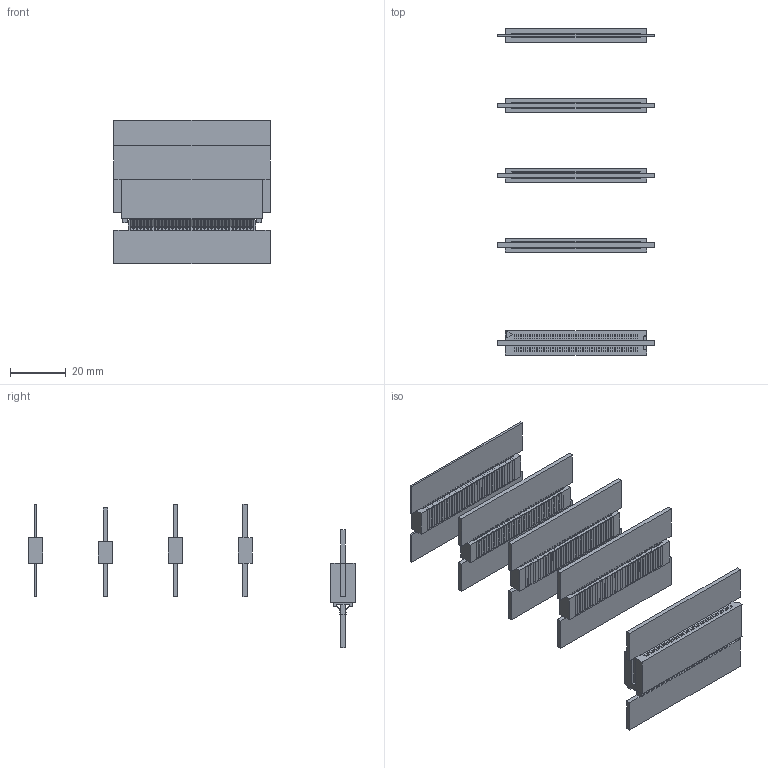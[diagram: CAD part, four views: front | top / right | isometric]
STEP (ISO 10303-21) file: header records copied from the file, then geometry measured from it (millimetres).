
FILE_DESCRIPTION(('Open CASCADE Model'),'2;1');
FILE_NAME('Open CASCADE Shape Model','2026-10-18T18:37:23',('Author'),( 'Open CASCADE'),'Open CASCADE STEP processor 7.9','Open CASCADE 7.9' ,'Unknown');
FILE_SCHEMA(('AUTOMOTIVE_DESIGN { 1 0 10303 214 1 1 1 1 }'));
Length unit declared in the file: millimetre
Products named in the file (35): EdgeCoupler_variants_comparison; V0_WingTAT_today; HEE70LP03BK_vendor_model; card_A; pads_A_gold; card_B_host_in_fork; pads_B_gold; V1_web_9p2; housing_LCP; contacts_BeCu_x14_of_70_shown; card_B; V2_kiss_9p2; V3_kiss_short_7p8; V4_kiss_0p8_sister
Assembly tree (34 placements, depth 3):
  EdgeCoupler_variants_comparison
    V0_WingTAT_today
      HEE70LP03BK_vendor_model
      card_A
      pads_A_gold
      card_B_host_in_fork
      pads_B_gold
    V1_web_9p2
      housing_LCP
      contacts_BeCu_x14_of_70_shown
      card_A
      pads_A_gold
      card_B
      pads_B_gold
    V2_kiss_9p2
      housing_LCP
      contacts_BeCu_x14_of_70_shown
      card_A
      pads_A_gold
      card_B
      pads_B_gold
    V3_kiss_short_7p8
      housing_LCP
      contacts_BeCu_x14_of_70_shown
      card_A
      pads_A_gold
      card_B
      pads_B_gold
    V4_kiss_0p8_sister
      housing_LCP
      contacts_BeCu_x14_of_70_shown
      card_A
      pads_A_gold
      card_B
      pads_B_gold
Bounding box: 56 x 116.94 x 51.5 mm (x, y, z)
Volume: 20614.2 mm3; surface area: 50617.3 mm2
Topology: 841 solids, 841 shells, 11881 faces, 29039 edges, 18986 vertices
Faces by surface type: plane 11371, cylinder 286, bspline 224
Entity records: 794726 total; most frequent: CARTESIAN_POINT 206103, DIRECTION 103213, LINE 78265, VECTOR 78265, ORIENTED_EDGE 58078, PCURVE 58078, DEFINITIONAL_REPRESENTATION 58078, EDGE_CURVE 29039
